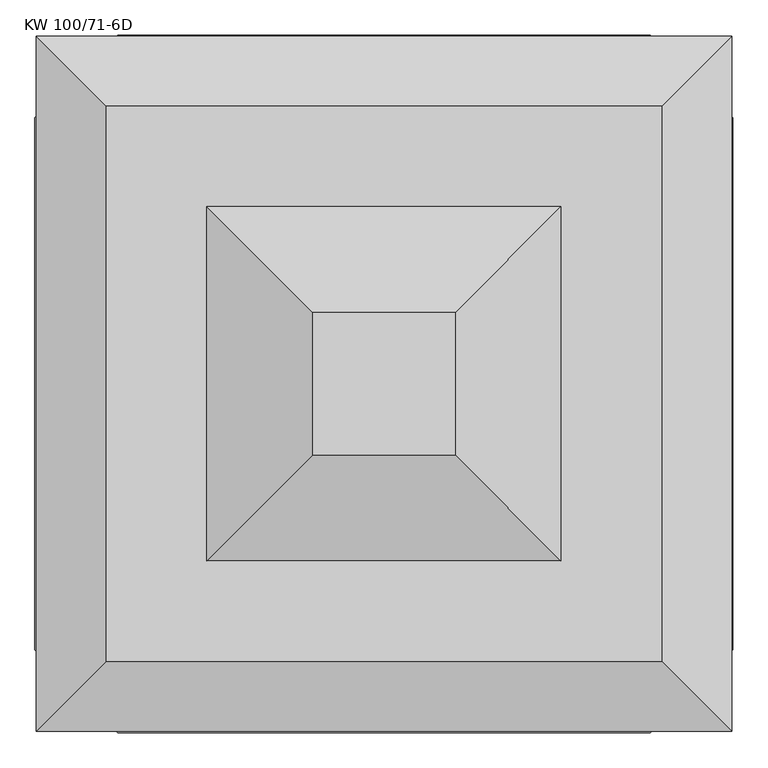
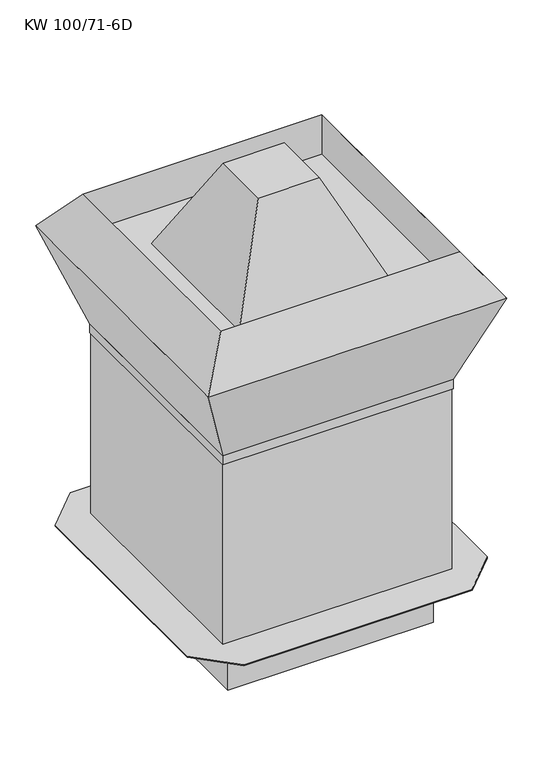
"""IFC4 building model written with IfcOpenShell, lengths in millimetres: proxy geometry, KORF_Вентилятор_Вытяжной_Крышный_KW : KW 100/71-6D."""

from ifc_helpers import new_model, si_unit, frame, origin, place, context, project, spatial, polyline, outline, extrude, faceted_brep, source, transform, mapped, element, save


def kw_100_71_6d_e29cd3cb(model_context):
    return source(origin(), model_context, "Body", "SolidModel", [
        faceted_brep([(462.5, 485.0, -1.0), (462.5, 462.5, -1.0), (-462.5, 462.5, -1.0), (-462.5, 485.0, -1.0), (462.5, -462.5, -1.0), (462.5, -485.0, -1.0), (-462.5, -485.0, -1.0), (-462.5, -462.5, -1.0), (-462.5, 485.0, 0.0), (462.5, 485.0, 0.0), (-462.5, 462.5, 0.0), (462.5, 462.5, 0.0), (-462.5, -485.0, 0.0), (-462.5, -462.5, 0.0), (462.5, -485.0, 0.0), (462.5, -462.5, 0.0), (-486.5, 462.5, 0.0), (-486.5, -462.5, 0.0), (485.0, -462.5, 0.0), (485.0, 462.5, 0.0), (461.0, 461.0, 0.0), (461.0, -461.0, 0.0), (-461.0, -461.0, 0.0), (-461.0, 461.0, 0.0), (-486.5, 462.5, -1.0), (-486.5, -462.5, -1.0), (485.0, -462.5, -1.0), (485.0, 462.5, -1.0), (462.5, -462.5, -264.0), (-462.5, -462.5, -264.0), (-462.5, 462.5, -264.0), (462.5, 462.5, -264.0), (461.0, 461.0, -264.0), (-461.0, 461.0, -264.0), (-461.0, -461.0, -264.0), (461.0, -461.0, -264.0)], [[[0, 1, 2, 3]], [[4, 5, 6, 7]], [[0, 3, 8, 9]], [[3, 2, 10, 8]], [[1, 0, 9, 11]], [[7, 6, 12, 13]], [[6, 5, 14, 12]], [[5, 4, 15, 14]], [[16, 17, 13, 12, 14, 15, 18, 19, 11, 9, 8, 10], [20, 21, 22, 23]], [[24, 2, 7, 25]], [[26, 4, 1, 27]], [[17, 16, 24, 25]], [[13, 17, 25, 7]], [[16, 10, 2, 24]], [[19, 18, 26, 27]], [[11, 19, 27, 1]], [[18, 15, 4, 26]], [[28, 29, 30, 31], [32, 33, 34, 35]], [[28, 31, 1, 4]], [[31, 30, 2, 1]], [[30, 29, 7, 2]], [[29, 28, 4, 7]], [[21, 20, 32, 35]], [[22, 21, 35, 34]], [[23, 22, 34, 33]], [[20, 23, 33, 32]]]),
        faceted_brep([(515.0, 515.0, 907.0), (-515.0, 515.0, 907.0), (-515.0, -515.0, 907.0), (515.0, -515.0, 907.0), (515.0, 675.0, 0.0), (675.0, 515.0, 0.0), (675.0, -515.0, 0.0), (515.0, -675.0, 0.0), (-515.0, -675.0, 0.0), (-675.0, -515.0, 0.0), (-675.0, 515.0, 0.0), (-515.0, 675.0, 0.0), (515.0, 515.0, 5.0), (-515.0, 515.0, 5.0), (-515.0, -515.0, 5.0), (515.0, -515.0, 5.0), (515.0, 675.0, 5.0), (-515.0, 675.0, 5.0), (-675.0, 515.0, 5.0), (-675.0, -515.0, 5.0), (-515.0, -675.0, 5.0), (515.0, -675.0, 5.0), (675.0, -515.0, 5.0), (675.0, 515.0, 5.0)], [[[0, 1, 2, 3]], [[4, 5, 6, 7, 8, 9, 10, 11]], [[1, 0, 12, 13]], [[2, 1, 13, 14]], [[3, 2, 14, 15]], [[0, 3, 15, 12]], [[16, 17, 18, 19, 20, 21, 22, 23], [13, 12, 15, 14]], [[17, 16, 4, 11]], [[18, 17, 11, 10]], [[19, 18, 10, 9]], [[20, 19, 9, 8]], [[21, 20, 8, 7]], [[22, 21, 7, 6]], [[23, 22, 6, 5]], [[16, 23, 5, 4]]]),
        faceted_brep([(137.5, 137.5, 1769.0), (-137.5, 137.5, 1769.0), (-137.5, -137.5, 1769.0), (137.5, -137.5, 1769.0), (342.5, 342.5, 1332.75), (342.5, -342.5, 1332.75), (-342.5, -342.5, 1332.75), (-342.5, 342.5, 1332.75)], [[[0, 1, 2, 3]], [[4, 5, 6, 7]], [[4, 7, 1, 0]], [[7, 6, 2, 1]], [[6, 5, 3, 2]], [[5, 4, 0, 3]]]),
        faceted_brep([(672.5, 672.5, 1332.75), (672.5, -672.5, 1332.75), (-672.5, -672.5, 1332.75), (-672.5, 672.5, 1332.75), (538.0, 538.0, 1332.75), (-538.0, 538.0, 1332.75), (-538.0, -538.0, 1332.75), (538.0, -538.0, 1332.75), (-538.0, 538.0, 1519.0), (538.0, 538.0, 1519.0), (-538.0, -538.0, 1519.0), (538.0, -538.0, 1519.0)], [[[0, 1, 2, 3], [4, 5, 6, 7]], [[0, 3, 8, 9]], [[3, 2, 10, 8]], [[2, 1, 11, 10]], [[1, 0, 9, 11]], [[8, 5, 4, 9]], [[5, 8, 10, 6]], [[6, 10, 11, 7]], [[9, 4, 7, 11]]]),
        faceted_brep([(672.5, 672.5, 1332.75), (-672.5, 672.5, 1332.75), (-672.5, -672.5, 1332.75), (672.5, -672.5, 1332.75), (519.0, 519.0, 907.0), (519.0, -519.0, 907.0), (-519.0, -519.0, 907.0), (-519.0, 519.0, 907.0)], [[[0, 1, 2, 3]], [[4, 5, 6, 7]], [[4, 7, 1, 0]], [[7, 6, 2, 1]], [[6, 5, 3, 2]], [[5, 4, 0, 3]]]),
        extrude(outline(polyline([(519.0, 519.0), (519.0, -519.0), (-519.0, -519.0), (-519.0, 519.0), (519.0, 519.0)]), holes=[polyline([(516.0, 516.0), (-516.0, 516.0), (-516.0, -516.0), (516.0, -516.0), (516.0, 516.0)])]), frame((0.0, 0.0, 864.0), z_axis=(0.0, 0.0, 1.0), x_axis=(1.0, 0.0, 0.0)), (0.0, 0.0, 1.0), 43.0),
    ])


if __name__ == "__main__":
    model = new_model("IFC4")
    model_context = context("Model", 3, world=origin())
    ifc_project = project(units=[si_unit("LENGTHUNIT", "METRE", prefix="MILLI")], contexts=[model_context])
    site = spatial("IfcSite", under=ifc_project)
    building = spatial("IfcBuilding", under=site)
    placement = place(None, origin())
    kw_100_71_6d_shape = kw_100_71_6d_e29cd3cb(model_context)
    element("IfcBuildingElementProxy", 1, Name="KORF_Вентилятор_Вытяжной_Крышный_KW : KW 100/71-6D", ObjectType="KORF_Вентилятор_Вытяжной_Крышный_KW : KW 100/71-6D", at=placement, inside=building, context=model_context, shape_type="MappedRepresentation", body=[
        mapped(kw_100_71_6d_shape, transform((0.0, 0.0, 0.0), x_axis=(1.0, 0.0, 0.0), y_axis=(0.0, 1.0, 0.0), z_axis=(0.0, 0.0, 1.0))),
    ])
    save(model, "model.ifc")
